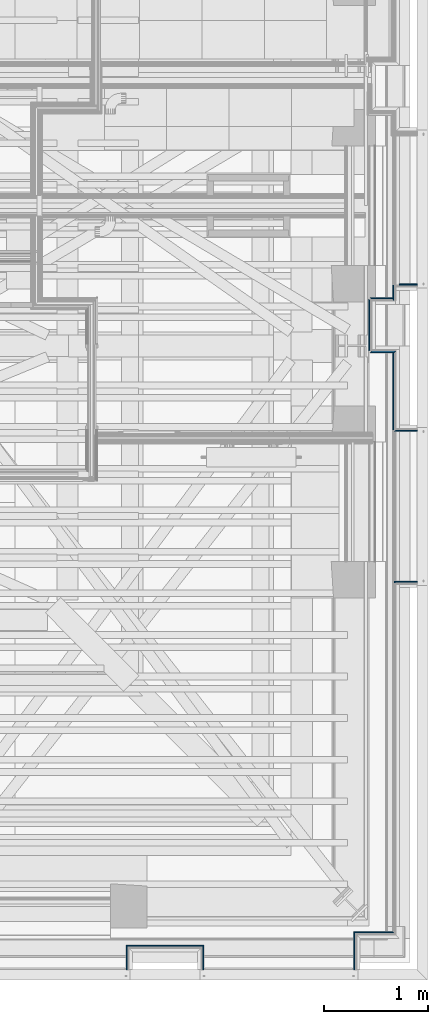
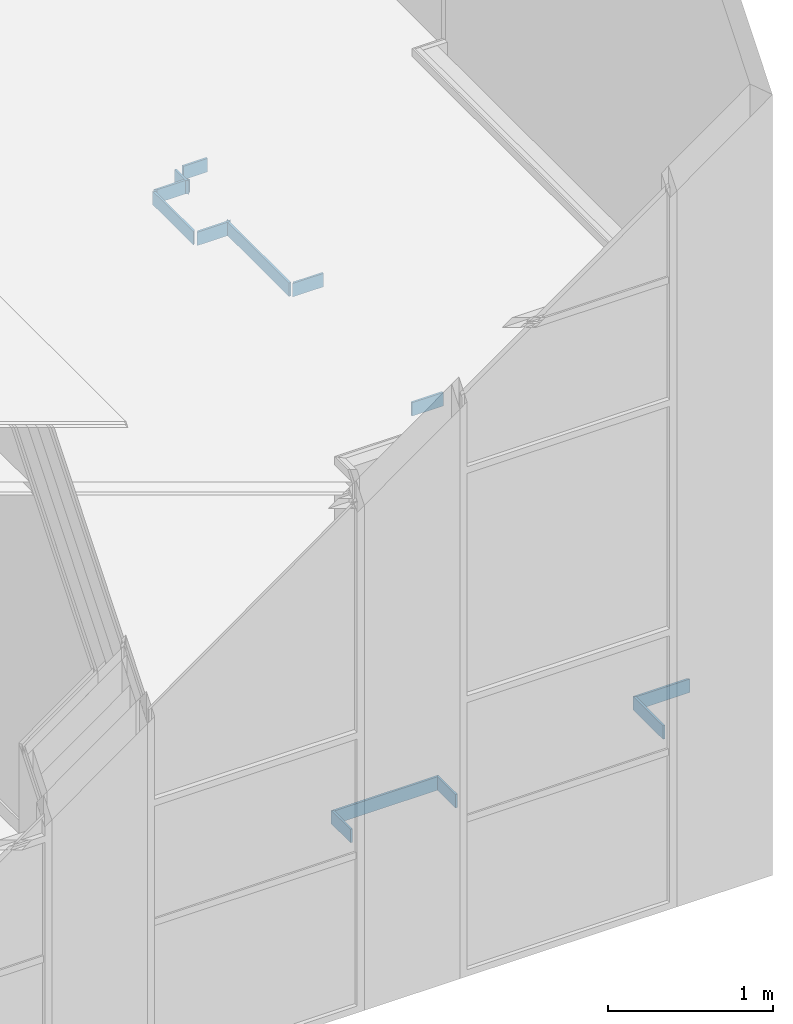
# One storey, part 78 of 183: 13 building element parts, 13 elements without a shape of their own.
"""IFC2X3 building model written with IfcOpenShell, lengths in metres."""

from ifc_helpers import new_model, entity, si_unit, converted_unit, derived_unit, money_unit, direction, frame, frame_2d, origin_with_axes, place, context, subcontext, project, spatial, polyline, rectangle, outline, extrude, material, type_object, element, aggregate, save


model = new_model("IFC2X3")

# Units and contexts
model_context = context("Model", 3, precision=1e-05, world=origin_with_axes(), true_north=direction((0.0, 1.0)))
body_context = subcontext(model_context, "Body", "Model", "MODEL_VIEW", scale=1.0)
ifc_project = project(units=[si_unit("LENGTHUNIT", "METRE"), si_unit("AREAUNIT", "SQUARE_METRE"), si_unit("VOLUMEUNIT", "CUBIC_METRE"), si_unit("ABSORBEDDOSEUNIT", "GRAY"), si_unit("AMOUNTOFSUBSTANCEUNIT", "MOLE"), si_unit("DOSEEQUIVALENTUNIT", "SIEVERT"), si_unit("ELECTRICCAPACITANCEUNIT", "FARAD"), si_unit("ELECTRICCHARGEUNIT", "COULOMB"), si_unit("ELECTRICCONDUCTANCEUNIT", "SIEMENS"), si_unit("ELECTRICCURRENTUNIT", "AMPERE"), si_unit("ELECTRICRESISTANCEUNIT", "OHM"), si_unit("ELECTRICVOLTAGEUNIT", "VOLT"), si_unit("ENERGYUNIT", "JOULE"), si_unit("FORCEUNIT", "NEWTON"), si_unit("FREQUENCYUNIT", "HERTZ"), si_unit("ILLUMINANCEUNIT", "LUX"), si_unit("INDUCTANCEUNIT", "HENRY"), si_unit("LUMINOUSFLUXUNIT", "LUMEN"), si_unit("LUMINOUSINTENSITYUNIT", "CANDELA"), si_unit("MAGNETICFLUXDENSITYUNIT", "TESLA"), si_unit("MAGNETICFLUXUNIT", "WEBER"), si_unit("MASSUNIT", "GRAM"), converted_unit("PLANEANGLEUNIT", "degree", entity("IfcReal", 0.0174532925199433), si_unit("PLANEANGLEUNIT", "RADIAN"), dimensions=[0, 0, 0, 0, 0, 0, 0]), si_unit("POWERUNIT", "WATT"), si_unit("PRESSUREUNIT", "PASCAL"), si_unit("RADIOACTIVITYUNIT", "BECQUEREL"), si_unit("SOLIDANGLEUNIT", "STERADIAN"), si_unit("THERMODYNAMICTEMPERATUREUNIT", "KELVIN"), si_unit("TIMEUNIT", "SECOND"), derived_unit("ACCELERATIONUNIT", [(si_unit("LENGTHUNIT", "METRE"), 1), (si_unit("TIMEUNIT", "SECOND"), -2)]), derived_unit("ANGULARVELOCITYUNIT", [(converted_unit("PLANEANGLEUNIT", "degree", entity("IfcReal", 0.0174532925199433), si_unit("PLANEANGLEUNIT", "RADIAN"), dimensions=[0, 0, 0, 0, 0, 0, 0]), 1), (si_unit("TIMEUNIT", "SECOND"), -1)]), derived_unit("CURVATUREUNIT", [(converted_unit("PLANEANGLEUNIT", "degree", entity("IfcReal", 0.0174532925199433), si_unit("PLANEANGLEUNIT", "RADIAN"), dimensions=[0, 0, 0, 0, 0, 0, 0]), 1), (si_unit("LENGTHUNIT", "METRE"), -1)]), derived_unit("DYNAMICVISCOSITYUNIT", [(si_unit("PRESSUREUNIT", "PASCAL"), 1), (si_unit("TIMEUNIT", "SECOND"), 1)]), derived_unit("HEATFLUXDENSITYUNIT", [(si_unit("POWERUNIT", "WATT"), 1), (si_unit("LENGTHUNIT", "METRE"), -2)]), derived_unit("HEATINGVALUEUNIT", [(si_unit("ENERGYUNIT", "JOULE"), 1), (si_unit("MASSUNIT", "GRAM"), -1)]), derived_unit("INTEGERCOUNTRATEUNIT", [(si_unit("TIMEUNIT", "SECOND"), -1)]), derived_unit("IONCONCENTRATIONUNIT", [(si_unit("MASSUNIT", "GRAM"), 1), (si_unit("VOLUMEUNIT", "CUBIC_METRE"), -1)]), derived_unit("ISOTHERMALMOISTURECAPACITYUNIT", [(si_unit("VOLUMEUNIT", "CUBIC_METRE"), 1), (si_unit("MASSUNIT", "GRAM"), -1)]), derived_unit("KINEMATICVISCOSITYUNIT", [(si_unit("AREAUNIT", "SQUARE_METRE"), 1), (si_unit("TIMEUNIT", "SECOND"), -1)]), derived_unit("LINEARFORCEUNIT", [(si_unit("FORCEUNIT", "NEWTON"), 1), (si_unit("LENGTHUNIT", "METRE"), -1)]), derived_unit("LINEARMOMENTUNIT", [(si_unit("FORCEUNIT", "NEWTON"), 1), (si_unit("LENGTHUNIT", "METRE"), -1)]), derived_unit("LINEARSTIFFNESSUNIT", [(si_unit("FORCEUNIT", "NEWTON"), 1), (si_unit("LENGTHUNIT", "METRE"), -1)]), derived_unit("LINEARVELOCITYUNIT", [(si_unit("LENGTHUNIT", "METRE"), 1), (si_unit("TIMEUNIT", "SECOND"), -1)]), derived_unit("LUMINOUSINTENSITYDISTRIBUTIONUNIT", [(si_unit("LUMINOUSINTENSITYUNIT", "CANDELA"), 1), (si_unit("LUMINOUSFLUXUNIT", "LUMEN"), -1)]), derived_unit("MASSDENSITYUNIT", [(si_unit("MASSUNIT", "GRAM"), 1), (si_unit("VOLUMEUNIT", "CUBIC_METRE"), -1)]), derived_unit("MASSFLOWRATEUNIT", [(si_unit("MASSUNIT", "GRAM"), 1), (si_unit("TIMEUNIT", "SECOND"), -1)]), derived_unit("MASSPERLENGTHUNIT", [(si_unit("MASSUNIT", "GRAM"), 1), (si_unit("LENGTHUNIT", "METRE"), -1)]), derived_unit("MODULUSOFELASTICITYUNIT", [(si_unit("FORCEUNIT", "NEWTON"), 1), (si_unit("AREAUNIT", "SQUARE_METRE"), -1)]), derived_unit("MODULUSOFLINEARSUBGRADEREACTIONUNIT", [(si_unit("FORCEUNIT", "NEWTON"), 1), (si_unit("LENGTHUNIT", "METRE"), -2)]), derived_unit("MODULUSOFROTATIONALSUBGRADEREACTIONUNIT", [(si_unit("FORCEUNIT", "NEWTON"), 1), (si_unit("LENGTHUNIT", "METRE"), 1)]), derived_unit("MODULUSOFSUBGRADEREACTIONUNIT", [(si_unit("FORCEUNIT", "NEWTON"), 1), (si_unit("VOLUMEUNIT", "CUBIC_METRE"), -1)]), derived_unit("MOISTUREDIFFUSIVITYUNIT", [(si_unit("VOLUMEUNIT", "CUBIC_METRE"), 1), (si_unit("TIMEUNIT", "SECOND"), -1)]), derived_unit("MOLECULARWEIGHTUNIT", [(si_unit("MASSUNIT", "GRAM"), 1), (si_unit("AMOUNTOFSUBSTANCEUNIT", "MOLE"), -1)]), derived_unit("PLANARFORCEUNIT", [(si_unit("FORCEUNIT", "NEWTON"), 1), (si_unit("LENGTHUNIT", "METRE"), -2)]), derived_unit("ROTATIONALFREQUENCYUNIT", [(si_unit("TIMEUNIT", "SECOND"), -1)]), derived_unit("ROTATIONALMASSUNIT", [(si_unit("MASSUNIT", "GRAM"), 1), (si_unit("LENGTHUNIT", "METRE"), 2)]), derived_unit("ROTATIONALSTIFFNESSUNIT", [(si_unit("FORCEUNIT", "NEWTON"), 1), (si_unit("LENGTHUNIT", "METRE"), 1), (converted_unit("PLANEANGLEUNIT", "degree", entity("IfcReal", 0.0174532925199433), si_unit("PLANEANGLEUNIT", "RADIAN"), dimensions=[0, 0, 0, 0, 0, 0, 0]), -1)]), derived_unit("SECTIONAREAINTEGRALUNIT", [(si_unit("LENGTHUNIT", "METRE"), 5)]), derived_unit("SECTIONMODULUSUNIT", [(si_unit("LENGTHUNIT", "METRE"), 3)]), derived_unit("SHEARMODULUSUNIT", [(si_unit("FORCEUNIT", "NEWTON"), 1), (si_unit("AREAUNIT", "SQUARE_METRE"), -1)]), derived_unit("SOUNDPOWERUNIT", [(si_unit("ENERGYUNIT", "JOULE"), 1), (si_unit("TIMEUNIT", "SECOND"), -1)]), derived_unit("SPECIFICHEATCAPACITYUNIT", [(si_unit("FORCEUNIT", "NEWTON"), 1), (si_unit("MASSUNIT", "GRAM"), -1), (si_unit("THERMODYNAMICTEMPERATUREUNIT", "KELVIN"), -1)]), derived_unit("TEMPERATUREGRADIENTUNIT", [(si_unit("THERMODYNAMICTEMPERATUREUNIT", "KELVIN"), 1), (si_unit("LENGTHUNIT", "METRE"), -1)]), derived_unit("THERMALADMITTANCEUNIT", [(si_unit("POWERUNIT", "WATT"), 1), (si_unit("AREAUNIT", "SQUARE_METRE"), -1), (si_unit("THERMODYNAMICTEMPERATUREUNIT", "KELVIN"), -1)]), derived_unit("THERMALCONDUCTANCEUNIT", [(si_unit("POWERUNIT", "WATT"), 1), (si_unit("LENGTHUNIT", "METRE"), -1), (si_unit("THERMODYNAMICTEMPERATUREUNIT", "KELVIN"), -1)]), derived_unit("THERMALEXPANSIONCOEFFICIENTUNIT", [(si_unit("THERMODYNAMICTEMPERATUREUNIT", "KELVIN"), -1)]), derived_unit("THERMALRESISTANCEUNIT", [(si_unit("AREAUNIT", "SQUARE_METRE"), 1), (si_unit("POWERUNIT", "WATT"), -1)]), derived_unit("THERMALTRANSMITTANCEUNIT", [(si_unit("POWERUNIT", "WATT"), 1), (si_unit("AREAUNIT", "SQUARE_METRE"), -1), (si_unit("THERMODYNAMICTEMPERATUREUNIT", "KELVIN"), -1)]), derived_unit("TORQUEUNIT", [(si_unit("FORCEUNIT", "NEWTON"), 1), (si_unit("LENGTHUNIT", "METRE"), 1)]), derived_unit("VAPORPERMEABILITYUNIT", [(si_unit("MASSUNIT", "GRAM"), 1), (si_unit("TIMEUNIT", "SECOND"), -1)]), derived_unit("VOLUMETRICFLOWRATEUNIT", [(si_unit("VOLUMEUNIT", "CUBIC_METRE"), 1), (si_unit("TIMEUNIT", "SECOND"), -1)]), derived_unit("WARPINGCONSTANTUNIT", [(si_unit("LENGTHUNIT", "METRE"), 6)]), derived_unit("WARPINGMOMENTUNIT", [(si_unit("FORCEUNIT", "NEWTON"), 1), (si_unit("LENGTHUNIT", "METRE"), 2)]), money_unit("GBP")], contexts=[model_context])

# Site, building, storey
site_placement = place(None, origin_with_axes())
site = spatial("IfcSite", under=ifc_project, at=site_placement, Name="Site", CompositionType="ELEMENT")
building_placement = place(site_placement, origin_with_axes())
building = spatial("IfcBuilding", under=site, at=building_placement, Name="Building01", CompositionType="ELEMENT")
storey_placement = place(building_placement, frame((0.0, 0.0, 5.15), z_axis=(0.0, 0.0, 1.0), x_axis=(1.0, 0.0, 0.0)))
storey = spatial("IfcBuildingStorey", under=building, at=storey_placement, Name="1F", CompositionType="ELEMENT", Elevation=5.15)

# Wall, building element part
wall_type = type_object("IfcWallType", Name="SHE_A-Walls_Type06d_ExternalWallInsulation_48mm", PredefinedType="NOTDEFINED")
wall_1_placement = place(storey_placement, frame((24.143, 0.1, 0.0), z_axis=(0.0, 0.0, 1.0), x_axis=(0.0, 1.0, 0.0)))
wall_1 = element("IfcWall", 1, at=wall_1_placement, inside=storey, type_object=wall_type, Name="6D", ObjectType="SHE_A-Walls_Type06d_ExternalWallInsulation_48mm")
ifc_material = material(Name="A_BSUK_Walls_Timber")
building_element_part_1_placement = place(wall_1_placement, origin_with_axes())
building_element_part_1 = element("IfcBuildingElementPart", 2, at=building_element_part_1_placement, material=ifc_material, Name="3", context=body_context, shape_type="SweptSolid", body=[
    extrude(outline(polyline([(0.233, 0.063), (0.0, 0.063), (0.0, 0.048), (0.218, 0.048), (0.233, 0.063)])), frame((0.0, 0.0, 0.015), z_axis=(0.0, 0.0, 1.0), x_axis=(1.0, 0.0, 0.0)), (0.0, 0.0, 1.0), 0.1),
])
aggregate(wall_1, [building_element_part_1])

wall_2_placement = place(storey_placement, frame((24.143, 0.27, 0.0), z_axis=(0.0, 0.0, 1.0), x_axis=(1.0, 0.0, 0.0)))
wall_2 = element("IfcWall", 3, at=wall_2_placement, inside=storey, type_object=wall_type, Name="6D", ObjectType="SHE_A-Walls_Type06d_ExternalWallInsulation_48mm")
building_element_part_2_placement = place(wall_2_placement, origin_with_axes())
building_element_part_2 = element("IfcBuildingElementPart", 4, at=building_element_part_2_placement, material=ifc_material, Name="3", context=body_context, shape_type="SweptSolid", body=[
    extrude(outline(polyline([(0.687, 0.063), (-0.063, 0.063), (-0.048, 0.048), (0.672, 0.048), (0.687, 0.063)])), frame((0.0, 0.0, 0.015), z_axis=(0.0, 0.0, 1.0), x_axis=(1.0, 0.0, 0.0)), (0.0, 0.0, 1.0), 0.1),
])
aggregate(wall_2, [building_element_part_2])

wall_3_placement = place(storey_placement, frame((24.767, 0.27, 0.0), z_axis=(0.0, 0.0, 1.0), x_axis=(0.0, -1.0, 0.0)))
wall_3 = element("IfcWall", 5, at=wall_3_placement, inside=storey, type_object=wall_type, Name="6D", ObjectType="SHE_A-Walls_Type06d_ExternalWallInsulation_48mm")
building_element_part_3_placement = place(wall_3_placement, origin_with_axes())
building_element_part_3 = element("IfcBuildingElementPart", 6, at=building_element_part_3_placement, material=ifc_material, Name="3", context=body_context, shape_type="SweptSolid", body=[
    extrude(outline(polyline([(-0.063, 0.063), (-0.048, 0.048), (0.17, 0.048), (0.17, 0.063), (-0.063, 0.063)])), frame((0.0, 0.0, 0.015), z_axis=(0.0, 0.0, 1.0), x_axis=(1.0, 0.0, 0.0)), (0.0, 0.0, 1.0), 0.1),
])
aggregate(wall_3, [building_element_part_3])

wall_4_placement = place(storey_placement, frame((26.333, 0.1, 0.0), z_axis=(0.0, 0.0, 1.0), x_axis=(0.0, 1.0, 0.0)))
wall_4 = element("IfcWall", 7, at=wall_4_placement, inside=storey, type_object=wall_type, Name="6D", ObjectType="SHE_A-Walls_Type06d_ExternalWallInsulation_48mm")
building_element_part_4_placement = place(wall_4_placement, origin_with_axes())
building_element_part_4 = element("IfcBuildingElementPart", 8, at=building_element_part_4_placement, material=ifc_material, Name="3", context=body_context, shape_type="SweptSolid", body=[
    extrude(outline(polyline([(0.363, 0.063), (0.0, 0.063), (0.0, 0.048), (0.348, 0.048), (0.363, 0.063)])), frame((0.0, 0.0, 0.015), z_axis=(0.0, 0.0, 1.0), x_axis=(1.0, 0.0, 0.0)), (0.0, 0.0, 1.0), 0.1),
])
aggregate(wall_4, [building_element_part_4])

wall_5_placement = place(storey_placement, frame((26.333, 0.4, 0.0), z_axis=(0.0, 0.0, 1.0), x_axis=(1.0, 0.0, 0.0)))
wall_5 = element("IfcWall", 9, at=wall_5_placement, inside=storey, type_object=wall_type, Name="6D", ObjectType="SHE_A-Walls_Type06d_ExternalWallInsulation_48mm")
building_element_part_5_placement = place(wall_5_placement, origin_with_axes())
building_element_part_5 = element("IfcBuildingElementPart", 10, at=building_element_part_5_placement, material=ifc_material, Name="3", context=body_context, shape_type="SweptSolid", body=[
    extrude(outline(polyline([(0.314, 0.063), (-0.063, 0.063), (-0.048, 0.048), (0.329, 0.048), (0.314, 0.063)])), frame((0.0, 0.0, 0.015), z_axis=(0.0, 0.0, 1.0), x_axis=(1.0, 0.0, 0.0)), (0.0, 0.0, 1.0), 0.1),
])
aggregate(wall_5, [building_element_part_5])

wall_6_placement = place(storey_placement, frame((26.71, 3.77418, 0.0), z_axis=(0.0, 0.0, 1.0), x_axis=(1.0, 0.0, 0.0)))
wall_6 = element("IfcWall", 11, at=wall_6_placement, inside=storey, type_object=wall_type, Name="6D", ObjectType="SHE_A-Walls_Type06d_ExternalWallInsulation_48mm")
building_element_part_6_placement = place(wall_6_placement, origin_with_axes())
building_element_part_6 = element("IfcBuildingElementPart", 12, at=building_element_part_6_placement, material=ifc_material, Name="3", context=body_context, shape_type="SweptSolid", body=[
    extrude(rectangle(XDim=0.015, YDim=0.218, at=frame_2d((0.061, 0.0555), x_axis=(0.0, -1.0))), frame((0.0, 0.0, 0.015), z_axis=(0.0, 0.0, 1.0), x_axis=(1.0, 0.0, 0.0)), (0.0, 0.0, 1.0), 0.1),
])
aggregate(wall_6, [building_element_part_6])

wall_7_placement = place(storey_placement, frame((26.71, 5.34018, 0.0), z_axis=(0.0, 0.0, 1.0), x_axis=(1.0, 0.0, 0.0)))
wall_7 = element("IfcWall", 13, at=wall_7_placement, inside=storey, type_object=wall_type, Name="6D", ObjectType="SHE_A-Walls_Type06d_ExternalWallInsulation_48mm")
building_element_part_7_placement = place(wall_7_placement, origin_with_axes())
building_element_part_7 = element("IfcBuildingElementPart", 14, at=building_element_part_7_placement, material=ifc_material, Name="1", context=body_context, shape_type="SweptSolid", body=[
    extrude(outline(polyline([(-0.033, -0.048), (-0.048, -0.063), (0.17, -0.063), (0.17, -0.048), (-0.033, -0.048)])), frame((0.0, 0.0, 0.015), z_axis=(0.0, 0.0, 1.0), x_axis=(1.0, 0.0, 0.0)), (0.0, 0.0, 1.0), 0.1),
])
aggregate(wall_7, [building_element_part_7])

wall_8_placement = place(storey_placement, frame((26.71, 5.30418, 0.0), z_axis=(0.0, 0.0, 1.0), x_axis=(0.0, 1.0, 0.0)))
wall_8 = element("IfcWall", 15, at=wall_8_placement, inside=storey, type_object=wall_type, Name="6D", ObjectType="SHE_A-Walls_Type06d_ExternalWallInsulation_48mm")
building_element_part_8_placement = place(wall_8_placement, origin_with_axes())
building_element_part_8 = element("IfcBuildingElementPart", 16, at=building_element_part_8_placement, material=ifc_material, Name="3", context=body_context, shape_type="SweptSolid", body=[
    extrude(outline(polyline([(0.74782, 0.063), (-0.012, 0.063), (-0.012, 0.048), (0.76282, 0.048), (0.74782, 0.063)])), frame((0.0, 0.0, 0.015), z_axis=(0.0, 0.0, 1.0), x_axis=(1.0, 0.0, 0.0)), (0.0, 0.0, 1.0), 0.1),
])
aggregate(wall_8, [building_element_part_8])

wall_9_placement = place(storey_placement, frame((26.71, 6.1, 0.0), z_axis=(0.0, 0.0, 1.0), x_axis=(-1.0, 0.0, 0.0)))
wall_9 = element("IfcWall", 17, at=wall_9_placement, inside=storey, type_object=wall_type, Name="6D", ObjectType="SHE_A-Walls_Type06d_ExternalWallInsulation_48mm")
building_element_part_9_placement = place(wall_9_placement, origin_with_axes())
building_element_part_9 = element("IfcBuildingElementPart", 18, at=building_element_part_9_placement, material=ifc_material, Name="3", context=body_context, shape_type="SweptSolid", body=[
    extrude(outline(polyline([(0.278, 0.063), (0.048, 0.063), (0.033, 0.048), (0.263, 0.048), (0.278, 0.063)])), frame((0.0, 0.0, 0.015), z_axis=(0.0, 0.0, 1.0), x_axis=(1.0, 0.0, 0.0)), (0.0, 0.0, 1.0), 0.1),
])
aggregate(wall_9, [building_element_part_9])

wall_10_placement = place(storey_placement, frame((26.48, 6.064, 0.0), z_axis=(0.0, 0.0, 1.0), x_axis=(0.0, 1.0, 0.0)))
wall_10 = element("IfcWall", 19, at=wall_10_placement, inside=storey, type_object=wall_type, Name="6D", ObjectType="SHE_A-Walls_Type06d_ExternalWallInsulation_48mm")
building_element_part_10_placement = place(wall_10_placement, origin_with_axes())
building_element_part_10 = element("IfcBuildingElementPart", 20, at=building_element_part_10_placement, material=ifc_material, Name="3", context=body_context, shape_type="SweptSolid", body=[
    extrude(outline(polyline([(0.484, 0.063), (-0.012, 0.063), (0.003, 0.048), (0.469, 0.048), (0.484, 0.063)])), frame((0.0, 0.0, 0.015), z_axis=(0.0, 0.0, 1.0), x_axis=(1.0, 0.0, 0.0)), (0.0, 0.0, 1.0), 0.1),
])
aggregate(wall_10, [building_element_part_10])

wall_11_placement = place(storey_placement, frame((26.48, 6.5, 0.0), z_axis=(0.0, 0.0, 1.0), x_axis=(1.0, 0.0, 0.0)))
wall_11 = element("IfcWall", 21, at=wall_11_placement, inside=storey, type_object=wall_type, Name="6D", ObjectType="SHE_A-Walls_Type06d_ExternalWallInsulation_48mm")
building_element_part_11_placement = place(wall_11_placement, origin_with_axes())
building_element_part_11 = element("IfcBuildingElementPart", 22, at=building_element_part_11_placement, material=ifc_material, Name="3", context=body_context, shape_type="SweptSolid", body=[
    extrude(outline(polyline([(0.182, 0.063), (-0.048, 0.063), (-0.033, 0.048), (0.197, 0.048), (0.182, 0.063)])), frame((0.0, 0.0, 0.015), z_axis=(0.0, 0.0, 1.0), x_axis=(1.0, 0.0, 0.0)), (0.0, 0.0, 1.0), 0.1),
])
aggregate(wall_11, [building_element_part_11])

wall_12_placement = place(storey_placement, frame((26.71, 6.5, 0.0), z_axis=(0.0, 0.0, 1.0), x_axis=(0.0, 1.0, 0.0)))
wall_12 = element("IfcWall", 23, at=wall_12_placement, inside=storey, type_object=wall_type, Name="6D", ObjectType="SHE_A-Walls_Type06d_ExternalWallInsulation_48mm")
building_element_part_12_placement = place(wall_12_placement, origin_with_axes())
building_element_part_12 = element("IfcBuildingElementPart", 24, at=building_element_part_12_placement, material=ifc_material, Name="3", context=body_context, shape_type="SweptSolid", body=[
    extrude(outline(polyline([(0.048, 0.063), (0.033, 0.048), (0.182326, 0.048), (0.182326, 0.063), (0.048, 0.063)])), frame((0.0, 0.0, 0.015), z_axis=(0.0, 0.0, 1.0), x_axis=(1.0, 0.0, 0.0)), (0.0, 0.0, 1.0), 0.1),
])
aggregate(wall_12, [building_element_part_12])

wall_13_placement = place(storey_placement, frame((26.674, 6.634304, 0.0), z_axis=(0.0, 0.0, 1.0), x_axis=(1.0, 0.0, 0.0)))
wall_13 = element("IfcWall", 25, at=wall_13_placement, inside=storey, type_object=wall_type, Name="6D", ObjectType="SHE_A-Walls_Type06d_ExternalWallInsulation_48mm")
building_element_part_13_placement = place(wall_13_placement, origin_with_axes())
building_element_part_13 = element("IfcBuildingElementPart", 26, at=building_element_part_13_placement, material=ifc_material, Name="3", context=body_context, shape_type="SweptSolid", body=[
    extrude(rectangle(XDim=0.169791, YDim=0.015, at=frame_2d((0.121104, 0.0555), x_axis=(1.0, 0.0))), frame((0.0, 0.0, 0.015), z_axis=(0.0, 0.0, 1.0), x_axis=(1.0, 0.0, 0.0)), (0.0, 0.0, 1.0), 0.1),
])
aggregate(wall_13, [building_element_part_13])

save(model, "model.ifc")
